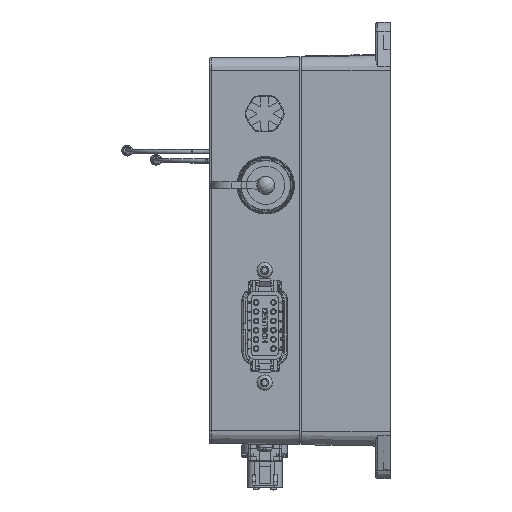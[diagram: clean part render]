
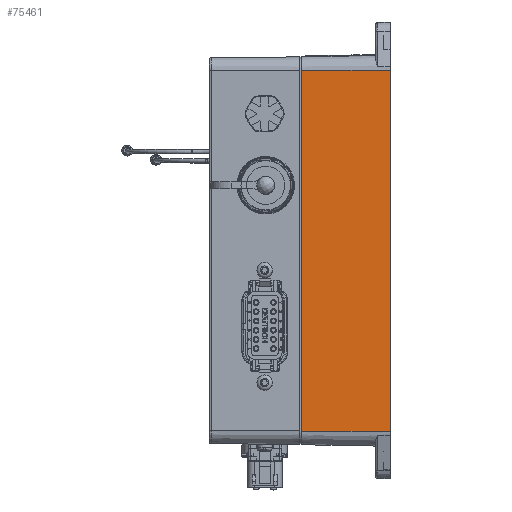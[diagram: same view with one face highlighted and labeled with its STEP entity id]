
A CAD part, left-side view. The second image highlights one B-rep face of the part: STEP entity #75461.
In plain terms, the highlighted planar face has unit normal (-1, 0.018, -0.003).
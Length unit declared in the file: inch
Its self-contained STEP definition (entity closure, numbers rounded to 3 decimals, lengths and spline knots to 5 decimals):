
#7085 = DIRECTION ( 'NONE',  ( -0.017, -1., 0. ) ) ;
#8248 = LINE ( 'NONE', #144793, #75183 ) ;
#10561 = LINE ( 'NONE', #23625, #38435 ) ;
#22288 = CARTESIAN_POINT ( 'NONE',  ( -2.39217, -1.5648, -3.12884 ) ) ;
#23625 = CARTESIAN_POINT ( 'NONE',  ( -345.29951, -19645.69866, 2.06138 ) ) ;
#28407 = DIRECTION ( 'NONE',  ( -1., 0.017, -0.003 ) ) ;
#35503 = DIRECTION ( 'NONE',  ( -0.017, -1., 0. ) ) ;
#38435 = VECTOR ( 'NONE', #35503, 39.37008 ) ;
#43612 = VECTOR ( 'NONE', #142470, 39.37008 ) ;
#51158 = LINE ( 'NONE', #71941, #43612 ) ;
#51739 = EDGE_CURVE ( 'NONE', #151516, #87774, #10561, .T. ) ;
#55934 = EDGE_LOOP ( 'NONE', ( #117099, #71861, #147930, #101037 ) ) ;
#60455 = EDGE_CURVE ( 'NONE', #67395, #87774, #8248, .T. ) ;
#63224 = CARTESIAN_POINT ( 'NONE',  ( -2.38472, -0.02937, 3.12277 ) ) ;
#67395 = VERTEX_POINT ( 'NONE', #22288 ) ;
#71436 = AXIS2_PLACEMENT_3D ( 'NONE', #99593, #28407, #111593 ) ;
#71486 = FACE_OUTER_BOUND ( 'NONE', #55934, .T. ) ;
#71861 = ORIENTED_EDGE ( 'NONE', *, *, #51739, .F. ) ;
#71941 = CARTESIAN_POINT ( 'NONE',  ( -2.37504, -0.02937, -0.003 ) ) ;
#72325 = EDGE_CURVE ( 'NONE', #121087, #67395, #131955, .T. ) ;
#72583 = CARTESIAN_POINT ( 'NONE',  ( -2.36537, -0.02937, -3.12876 ) ) ;
#73171 = CARTESIAN_POINT ( 'NONE',  ( -2.41152, -1.5648, 3.12269 ) ) ;
#73750 = DIRECTION ( 'NONE',  ( -0.003, 0., 1. ) ) ;
#75183 = VECTOR ( 'NONE', #73750, 39.37008 ) ;
#75461 = ADVANCED_FACE ( 'NONE', ( #71486 ), #111071, .T. ) ;
#87774 = VERTEX_POINT ( 'NONE', #73171 ) ;
#91159 = VECTOR ( 'NONE', #7085, 39.37008 ) ;
#99593 = CARTESIAN_POINT ( 'NONE',  ( -2.37504, -0.02937, -0.003 ) ) ;
#101025 = CARTESIAN_POINT ( 'NONE',  ( -2.36537, -0.02937, -3.12876 ) ) ;
#101037 = ORIENTED_EDGE ( 'NONE', *, *, #72325, .T. ) ;
#111071 = PLANE ( 'NONE',  #71436 ) ;
#111593 = DIRECTION ( 'NONE',  ( 0.017, 1., 0. ) ) ;
#117099 = ORIENTED_EDGE ( 'NONE', *, *, #60455, .T. ) ;
#121087 = VERTEX_POINT ( 'NONE', #72583 ) ;
#124112 = EDGE_CURVE ( 'NONE', #151516, #121087, #51158, .T. ) ;
#131955 = LINE ( 'NONE', #101025, #91159 ) ;
#142470 = DIRECTION ( 'NONE',  ( 0.003, 0., -1. ) ) ;
#144793 = CARTESIAN_POINT ( 'NONE',  ( -2.41152, -1.5648, 3.12269 ) ) ;
#147930 = ORIENTED_EDGE ( 'NONE', *, *, #124112, .T. ) ;
#151516 = VERTEX_POINT ( 'NONE', #63224 ) ;
